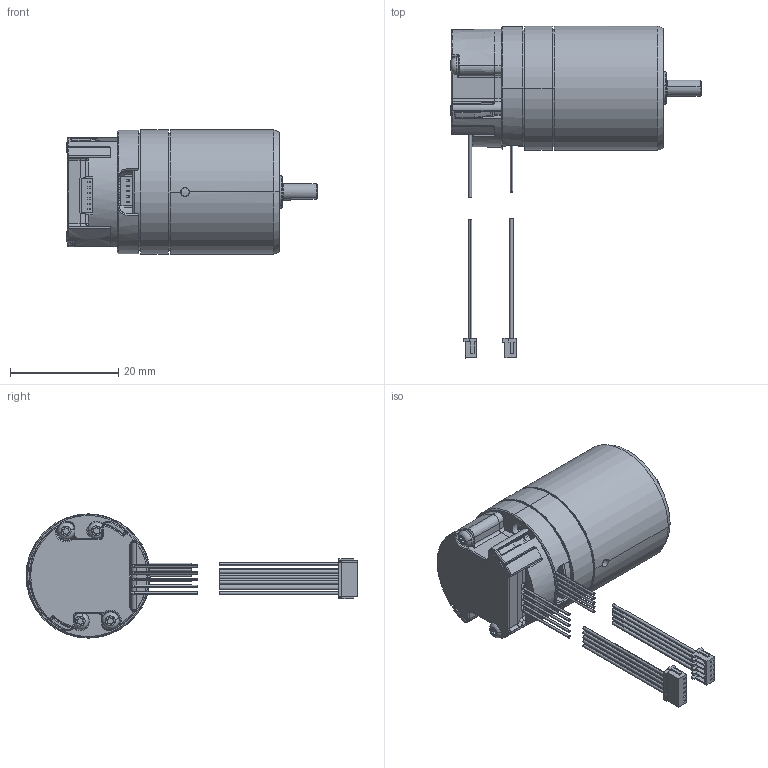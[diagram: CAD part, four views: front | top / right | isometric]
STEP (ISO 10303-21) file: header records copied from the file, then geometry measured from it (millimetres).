
FILE_DESCRIPTION (( 'STEP AP214' ), '1' );
FILE_NAME ('LR23-080A2AE1XXX-PiezoMotor.STEP', '2019-10-01T09:19:51', ( '' ), ( '' ), 'SwSTEP 2.0', 'SolidWorks 2017', '' );
FILE_SCHEMA (( 'AUTOMOTIVE_DESIGN' ));
Length unit declared in the file: millimetre
Products named in the file (4): LR23-080A2AE1XXX-EncoderPart-PiezoMotor; LR23-080A2AE1XXX-MotorShaft-PiezoMotor; LR23-080A2AE1XXX-Motor-PiezoMotor; LR23-080A2AE1XXX-PiezoMotor
Assembly tree (3 placements, depth 2):
  LR23-080A2AE1XXX-PiezoMotor
    LR23-080A2AE1XXX-Motor-PiezoMotor
    LR23-080A2AE1XXX-MotorShaft-PiezoMotor
    LR23-080A2AE1XXX-EncoderPart-PiezoMotor
Bounding box: 46.31 x 61.4 x 23 mm (x, y, z)
Volume: 10024.4 mm3; surface area: 12961.2 mm2
Topology: 34 solids, 34 shells, 1277 faces, 3206 edges, 2020 vertices
Faces by surface type: plane 492, cylinder 463, cone 150, torus 93, bspline 75, sphere 4
Entity records: 43075 total; most frequent: CARTESIAN_POINT 10634, DIRECTION 6560, ORIENTED_EDGE 6354, EDGE_CURVE 3177, AXIS2_PLACEMENT_3D 2472, VERTEX_POINT 2019, LINE 1616, VECTOR 1616
